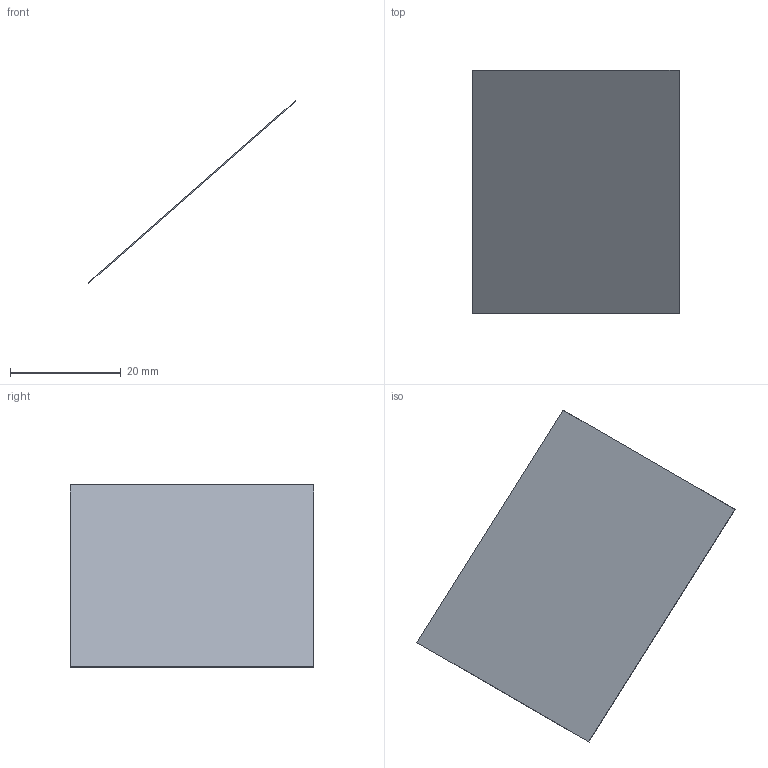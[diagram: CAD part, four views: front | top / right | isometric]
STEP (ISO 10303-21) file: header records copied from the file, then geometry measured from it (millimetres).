
FILE_DESCRIPTION(('Open CASCADE Model'),'2;1');
FILE_NAME('Open CASCADE Shape Model','2026-10-04T02:31:42',('Author'),( 'Open CASCADE'),'Open CASCADE STEP processor 8.0','Open CASCADE 8.0' ,'Unknown');
FILE_SCHEMA(('AUTOMOTIVE_DESIGN { 1 0 10303 214 1 1 1 1 }'));
Length unit declared in the file: millimetre
Products named in the file (1): Open CASCADE STEP translator 8.0 287
Bounding box: 37.49 x 44 x 32.94 mm (x, y, z)
Volume: 328.4 mm3; surface area: 4407 mm2
Topology: 1 solids, 1 shells, 6 faces, 12 edges, 8 vertices
Faces by surface type: plane 6
Entity records: 322 total; most frequent: CARTESIAN_POINT 51, DIRECTION 50, LINE 36, VECTOR 36, ORIENTED_EDGE 24, PCURVE 24, DEFINITIONAL_REPRESENTATION 24, EDGE_CURVE 12
